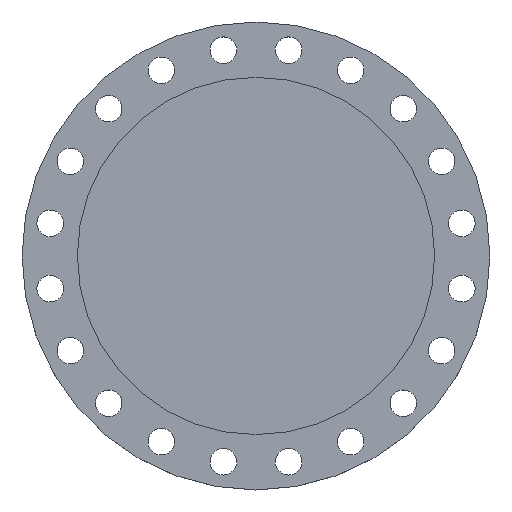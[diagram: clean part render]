
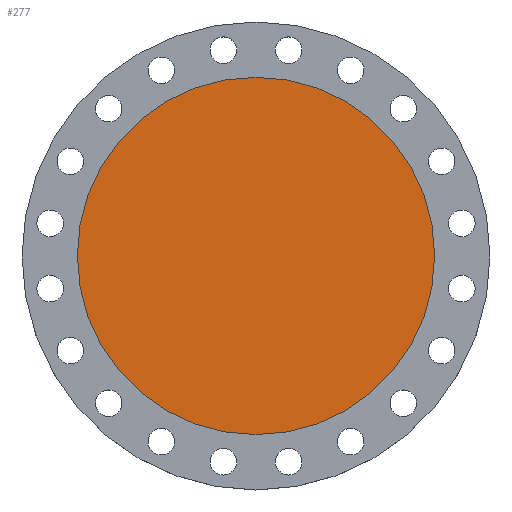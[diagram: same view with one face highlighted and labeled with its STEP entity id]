
A CAD part, top view. The second image highlights one B-rep face of the part: STEP entity #277.
In plain terms, the highlighted planar face has unit normal (0, 0, 1).
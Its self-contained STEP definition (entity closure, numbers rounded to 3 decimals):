
#111 = DIRECTION ( 'NONE',  ( -1., 0., 0. ) ) ;
#184 = CARTESIAN_POINT ( 'NONE',  ( -261.5, 0., 0. ) ) ;
#277 = ADVANCED_FACE ( 'NONE', ( #937 ), #935, .T. ) ;
#398 = AXIS2_PLACEMENT_3D ( 'NONE', #934, #933, #930 ) ;
#559 = CARTESIAN_POINT ( 'NONE',  ( 261.5, 0., 0. ) ) ;
#635 = AXIS2_PLACEMENT_3D ( 'NONE', #1541, #692, #111 ) ;
#692 = DIRECTION ( 'NONE',  ( 0., 0., -1. ) ) ;
#716 = DIRECTION ( 'NONE',  ( -1., 0., 0. ) ) ;
#717 = DIRECTION ( 'NONE',  ( 0., 0., -1. ) ) ;
#718 = CARTESIAN_POINT ( 'NONE',  ( 0., 0., 0. ) ) ;
#789 = EDGE_CURVE ( 'NONE', #1643, #1128, #1111, .T. ) ;
#930 = DIRECTION ( 'NONE',  ( 1., 0., 0. ) ) ;
#933 = DIRECTION ( 'NONE',  ( 0., 0., 1. ) ) ;
#934 = CARTESIAN_POINT ( 'NONE',  ( 0., 0., 0. ) ) ;
#935 = PLANE ( 'NONE',  #398 ) ;
#937 = FACE_OUTER_BOUND ( 'NONE', #1659, .T. ) ;
#1111 = CIRCLE ( 'NONE', #1114, 261.5 ) ;
#1114 = AXIS2_PLACEMENT_3D ( 'NONE', #718, #717, #716 ) ;
#1128 = VERTEX_POINT ( 'NONE', #559 ) ;
#1256 = ORIENTED_EDGE ( 'NONE', *, *, #1906, .F. ) ;
#1257 = ORIENTED_EDGE ( 'NONE', *, *, #789, .F. ) ;
#1541 = CARTESIAN_POINT ( 'NONE',  ( 0., 0., 0. ) ) ;
#1624 = CIRCLE ( 'NONE', #635, 261.5 ) ;
#1643 = VERTEX_POINT ( 'NONE', #184 ) ;
#1659 = EDGE_LOOP ( 'NONE', ( #1257, #1256 ) ) ;
#1906 = EDGE_CURVE ( 'NONE', #1128, #1643, #1624, .T. ) ;
